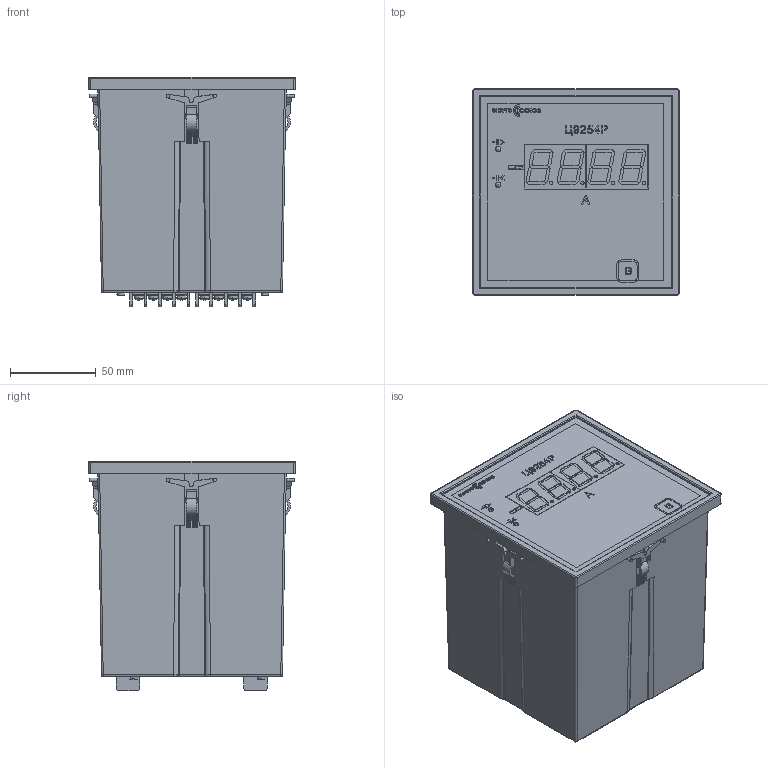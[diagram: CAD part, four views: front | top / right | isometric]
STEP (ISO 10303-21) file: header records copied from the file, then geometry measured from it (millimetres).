
FILE_DESCRIPTION (( 'STEP AP214' ), '1' );
FILE_NAME ('c9254r_120x120x138.STEP', '2025-01-15T12:50:14', ( '' ), ( '' ), 'SwSTEP 2.0', 'SolidWorks 2021', '' );
FILE_SCHEMA (( 'AUTOMOTIVE_DESIGN' ));
Length unit declared in the file: millimetre
Products named in the file (18): green-led; Êîïèÿ Êîïèÿ FYD-8021^c9254r_step; Êîïèÿ Ñêîáà DG35^ñáîðêà DG35x4; c9254r_120x120x138; 鼁闉罻-FYD-8021; pan head cross recess screw_iso_ISO 7045 - M3 x 4 - Z --- 4N; Êîïèÿ øàéáà DG35^ñáîðêà DG35x4; round led(no glow)_step; 鼁闉罻 DG35x4; slotted cheese head screw_iso_ISO 1207 - M2.5 x 10 - 10N; front-panel^c9254r_step; Êîïèÿ back-label-c92xxR^c9254r_step; Äåòàëü4^Êîïèÿ (2) Êîïèÿ FYD-8021_c9254r_step; Êîïèÿ (2) Êîïèÿ FYD-8021^c9254r_step; Êîïèÿ îñíîâàíèå DG35^ñáîðêà DG35x4; Äåòàëü4^Êîïèÿ Êîïèÿ FYD-8021_c9254r_step; body_elc_120x120x138; Ñêîáà
Assembly tree (36 placements, depth 3):
  c9254r_120x120x138
    body_elc_120x120x138
    front-panel^c9254r_step
    Ñêîáà  x4
    Êîïèÿ (2) Êîïèÿ FYD-8021^c9254r_step
      鼁闉罻-FYD-8021
    Êîïèÿ Êîïèÿ FYD-8021^c9254r_step
      鼁闉罻-FYD-8021
    green-led  x2
    round led(no glow)_step  x2
    鼁闉罻 DG35x4  x4
      Êîïèÿ îñíîâàíèå DG35^ñáîðêà DG35x4
      Êîïèÿ Ñêîáà DG35^ñáîðêà DG35x4
      pan head cross recess screw_iso_ISO 7045 - M3 x 4 - Z --- 4N
      Êîïèÿ øàéáà DG35^ñáîðêà DG35x4
    slotted cheese head screw_iso_ISO 1207 - M2.5 x 10 - 10N  x4
    Êîïèÿ back-label-c92xxR^c9254r_step
  Äåòàëü4^Êîïèÿ (2) Êîïèÿ FYD-8021_c9254r_step
  Äåòàëü4^Êîïèÿ Êîïèÿ FYD-8021_c9254r_step
Bounding box: 120 x 120 x 133.45 mm (x, y, z)
Volume: 1370257.2 mm3; surface area: 149286.1 mm2
Topology: 144 solids, 144 shells, 4946 faces, 12174 edges, 7604 vertices
Faces by surface type: plane 2683, cylinder 972, bspline 921, cone 184, sphere 110, torus 76
Entity records: 80118 total; most frequent: CARTESIAN_POINT 27613, ORIENTED_EDGE 9094, DIRECTION 7676, EDGE_CURVE 4547, LINE 3154, VECTOR 3154, VERTEX_POINT 2980, AXIS2_PLACEMENT_3D 2261
